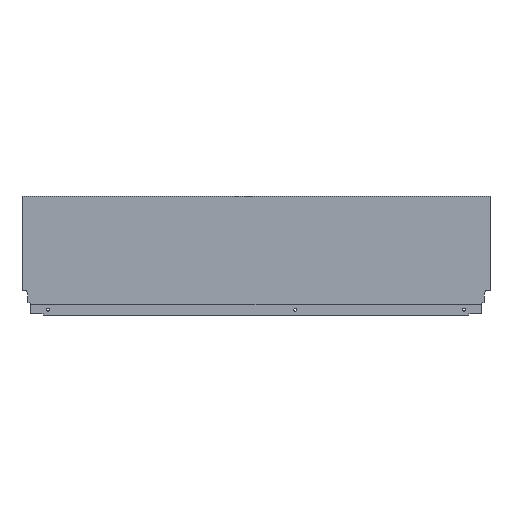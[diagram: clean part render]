
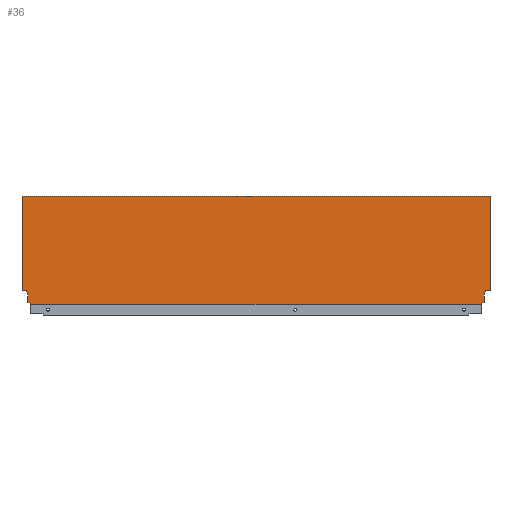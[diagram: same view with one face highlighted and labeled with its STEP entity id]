
A CAD part, top view. The second image highlights one B-rep face of the part: STEP entity #36.
In plain terms, the highlighted planar face has unit normal (0, 0, 1).
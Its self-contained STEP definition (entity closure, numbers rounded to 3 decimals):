
#36 = ADVANCED_FACE ( 'NONE', ( #371 ), #1316, .T. ) ;
#79 = ORIENTED_EDGE ( 'NONE', *, *, #174, .F. ) ;
#84 = ORIENTED_EDGE ( 'NONE', *, *, #173, .F. ) ;
#85 = ORIENTED_EDGE ( 'NONE', *, *, #169, .T. ) ;
#161 = EDGE_CURVE ( 'NONE', #1470, #1514, #535, .T. ) ;
#163 = EDGE_CURVE ( 'NONE', #1533, #1483, #539, .T. ) ;
#165 = EDGE_CURVE ( 'NONE', #1483, #1530, #543, .T. ) ;
#166 = EDGE_CURVE ( 'NONE', #1514, #1533, #545, .T. ) ;
#167 = EDGE_CURVE ( 'NONE', #1530, #1542, #547, .T. ) ;
#168 = EDGE_CURVE ( 'NONE', #1542, #1461, #549, .T. ) ;
#169 = EDGE_CURVE ( 'NONE', #1470, #1478, #551, .T. ) ;
#170 = EDGE_CURVE ( 'NONE', #1461, #1522, #530, .T. ) ;
#171 = EDGE_CURVE ( 'NONE', #1517, #1488, #555, .T. ) ;
#172 = EDGE_CURVE ( 'NONE', #1488, #1493, #557, .T. ) ;
#173 = EDGE_CURVE ( 'NONE', #1493, #1489, #559, .T. ) ;
#174 = EDGE_CURVE ( 'NONE', #1489, #1478, #561, .T. ) ;
#175 = EDGE_CURVE ( 'NONE', #1524, #1522, #563, .T. ) ;
#178 = EDGE_CURVE ( 'NONE', #1524, #1517, #538, .T. ) ;
#213 = AXIS2_PLACEMENT_3D ( 'NONE', #1317, #1314, #1313 ) ;
#294 = EDGE_LOOP ( 'NONE', ( #85, #79, #84, #1029, #1030, #1031, #1032, #1033, #1034, #1035, #1036, #1037, #1038, #1039 ) ) ;
#371 = FACE_OUTER_BOUND ( 'NONE', #294, .T. ) ;
#530 = LINE ( 'NONE', #938, #553 ) ;
#532 = VECTOR ( 'NONE', #899, 1000. ) ;
#535 = LINE ( 'NONE', #733, #536 ) ;
#536 = VECTOR ( 'NONE', #923, 1000. ) ;
#538 = LINE ( 'NONE', #900, #532 ) ;
#539 = LINE ( 'NONE', #941, #540 ) ;
#540 = VECTOR ( 'NONE', #930, 1000. ) ;
#543 = LINE ( 'NONE', #978, #544 ) ;
#544 = VECTOR ( 'NONE', #976, 1000. ) ;
#545 = LINE ( 'NONE', #925, #546 ) ;
#546 = VECTOR ( 'NONE', #924, 1000. ) ;
#547 = LINE ( 'NONE', #984, #548 ) ;
#548 = VECTOR ( 'NONE', #974, 1000. ) ;
#549 = LINE ( 'NONE', #967, #550 ) ;
#550 = VECTOR ( 'NONE', #929, 1000. ) ;
#551 = LINE ( 'NONE', #928, #552 ) ;
#552 = VECTOR ( 'NONE', #916, 1000. ) ;
#553 = VECTOR ( 'NONE', #951, 1000. ) ;
#555 = LINE ( 'NONE', #958, #556 ) ;
#556 = VECTOR ( 'NONE', #959, 1000. ) ;
#557 = LINE ( 'NONE', #971, #558 ) ;
#558 = VECTOR ( 'NONE', #868, 1000. ) ;
#559 = LINE ( 'NONE', #912, #560 ) ;
#560 = VECTOR ( 'NONE', #911, 1000. ) ;
#561 = LINE ( 'NONE', #907, #562 ) ;
#562 = VECTOR ( 'NONE', #908, 1000. ) ;
#563 = LINE ( 'NONE', #906, #564 ) ;
#564 = VECTOR ( 'NONE', #905, 1000. ) ;
#733 = CARTESIAN_POINT ( 'NONE',  ( -713., 164.7, 7.5 ) ) ;
#776 = CARTESIAN_POINT ( 'NONE',  ( 0., 21.2, 7.5 ) ) ;
#779 = CARTESIAN_POINT ( 'NONE',  ( -8.9, 2.64, 7.5 ) ) ;
#787 = CARTESIAN_POINT ( 'NONE',  ( -8.9, 10.765, 7.5 ) ) ;
#789 = CARTESIAN_POINT ( 'NONE',  ( -13.004, 0., 7.5 ) ) ;
#794 = CARTESIAN_POINT ( 'NONE',  ( -699.996, 1.146, 7.5 ) ) ;
#802 = CARTESIAN_POINT ( 'NONE',  ( -699.996, 0., 7.5 ) ) ;
#805 = CARTESIAN_POINT ( 'NONE',  ( 0., 164.7, 7.5 ) ) ;
#815 = CARTESIAN_POINT ( 'NONE',  ( -13.004, 1.146, 7.5 ) ) ;
#822 = CARTESIAN_POINT ( 'NONE',  ( -713., 164.7, 7.5 ) ) ;
#833 = CARTESIAN_POINT ( 'NONE',  ( -713., 21.2, 7.5 ) ) ;
#835 = CARTESIAN_POINT ( 'NONE',  ( -7.06, 21.2, 7.5 ) ) ;
#842 = CARTESIAN_POINT ( 'NONE',  ( -705.94, 21.2, 7.5 ) ) ;
#843 = CARTESIAN_POINT ( 'NONE',  ( -704.1, 2.64, 7.5 ) ) ;
#844 = CARTESIAN_POINT ( 'NONE',  ( -704.1, 10.765, 7.5 ) ) ;
#868 = DIRECTION ( 'NONE',  ( 0., 1., 0. ) ) ;
#899 = DIRECTION ( 'NONE',  ( 0., 1., 0. ) ) ;
#900 = CARTESIAN_POINT ( 'NONE',  ( -699.996, 1.146, 7.5 ) ) ;
#905 = DIRECTION ( 'NONE',  ( 1., 0., 0. ) ) ;
#906 = CARTESIAN_POINT ( 'NONE',  ( -713., 0., 7.5 ) ) ;
#907 = CARTESIAN_POINT ( 'NONE',  ( -718., 21.2, 7.5 ) ) ;
#908 = DIRECTION ( 'NONE',  ( -1., 0., 0. ) ) ;
#911 = DIRECTION ( 'NONE',  ( -0.174, 0.985, 0. ) ) ;
#912 = CARTESIAN_POINT ( 'NONE',  ( -705.94, 21.2, 7.5 ) ) ;
#916 = DIRECTION ( 'NONE',  ( 0., -1., 0. ) ) ;
#923 = DIRECTION ( 'NONE',  ( 1., 0., 0. ) ) ;
#924 = DIRECTION ( 'NONE',  ( 0., -1., 0. ) ) ;
#925 = CARTESIAN_POINT ( 'NONE',  ( 0., 0., 7.5 ) ) ;
#928 = CARTESIAN_POINT ( 'NONE',  ( -713., 0., 7.5 ) ) ;
#929 = DIRECTION ( 'NONE',  ( -0.94, -0.342, 0. ) ) ;
#930 = DIRECTION ( 'NONE',  ( -1., 0., 0. ) ) ;
#938 = CARTESIAN_POINT ( 'NONE',  ( -13.004, 1.146, 7.5 ) ) ;
#941 = CARTESIAN_POINT ( 'NONE',  ( 0., 21.2, 7.5 ) ) ;
#951 = DIRECTION ( 'NONE',  ( 0., -1., 0. ) ) ;
#958 = CARTESIAN_POINT ( 'NONE',  ( -704.1, 2.64, 7.5 ) ) ;
#959 = DIRECTION ( 'NONE',  ( -0.94, 0.342, 0. ) ) ;
#967 = CARTESIAN_POINT ( 'NONE',  ( -8.9, 2.64, 7.5 ) ) ;
#971 = CARTESIAN_POINT ( 'NONE',  ( -704.1, 10.765, 7.5 ) ) ;
#974 = DIRECTION ( 'NONE',  ( 0., -1., 0. ) ) ;
#976 = DIRECTION ( 'NONE',  ( -0.174, -0.985, 0. ) ) ;
#978 = CARTESIAN_POINT ( 'NONE',  ( -7.06, 21.2, 7.5 ) ) ;
#984 = CARTESIAN_POINT ( 'NONE',  ( -8.9, 10.765, 7.5 ) ) ;
#1029 = ORIENTED_EDGE ( 'NONE', *, *, #172, .F. ) ;
#1030 = ORIENTED_EDGE ( 'NONE', *, *, #171, .F. ) ;
#1031 = ORIENTED_EDGE ( 'NONE', *, *, #178, .F. ) ;
#1032 = ORIENTED_EDGE ( 'NONE', *, *, #175, .T. ) ;
#1033 = ORIENTED_EDGE ( 'NONE', *, *, #170, .F. ) ;
#1034 = ORIENTED_EDGE ( 'NONE', *, *, #168, .F. ) ;
#1035 = ORIENTED_EDGE ( 'NONE', *, *, #167, .F. ) ;
#1036 = ORIENTED_EDGE ( 'NONE', *, *, #165, .F. ) ;
#1037 = ORIENTED_EDGE ( 'NONE', *, *, #163, .F. ) ;
#1038 = ORIENTED_EDGE ( 'NONE', *, *, #166, .F. ) ;
#1039 = ORIENTED_EDGE ( 'NONE', *, *, #161, .F. ) ;
#1313 = DIRECTION ( 'NONE',  ( 1., 0., 0. ) ) ;
#1314 = DIRECTION ( 'NONE',  ( 0., 0., 1. ) ) ;
#1316 = PLANE ( 'NONE',  #213 ) ;
#1317 = CARTESIAN_POINT ( 'NONE',  ( -713., 0., 7.5 ) ) ;
#1461 = VERTEX_POINT ( 'NONE', #815 ) ;
#1470 = VERTEX_POINT ( 'NONE', #822 ) ;
#1478 = VERTEX_POINT ( 'NONE', #833 ) ;
#1483 = VERTEX_POINT ( 'NONE', #835 ) ;
#1488 = VERTEX_POINT ( 'NONE', #843 ) ;
#1489 = VERTEX_POINT ( 'NONE', #842 ) ;
#1493 = VERTEX_POINT ( 'NONE', #844 ) ;
#1514 = VERTEX_POINT ( 'NONE', #805 ) ;
#1517 = VERTEX_POINT ( 'NONE', #794 ) ;
#1522 = VERTEX_POINT ( 'NONE', #789 ) ;
#1524 = VERTEX_POINT ( 'NONE', #802 ) ;
#1530 = VERTEX_POINT ( 'NONE', #787 ) ;
#1533 = VERTEX_POINT ( 'NONE', #776 ) ;
#1542 = VERTEX_POINT ( 'NONE', #779 ) ;
